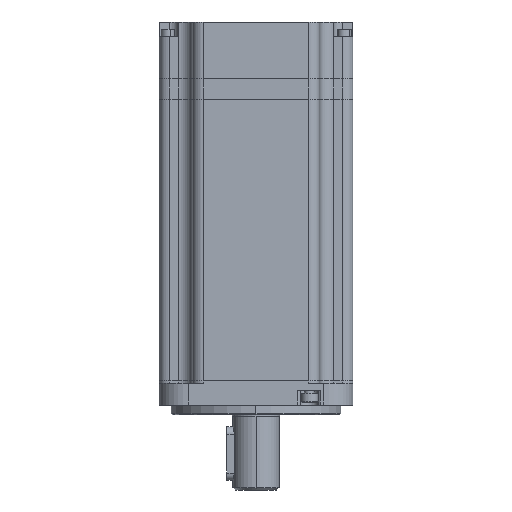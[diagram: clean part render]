
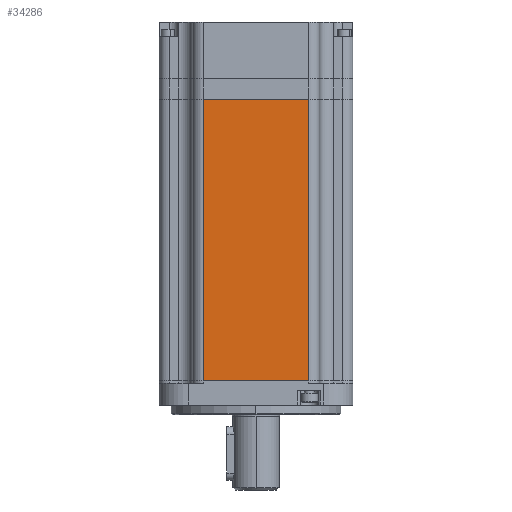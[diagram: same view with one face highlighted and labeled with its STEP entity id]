
A CAD part, left-side view. The second image highlights one B-rep face of the part: STEP entity #34286.
In plain terms, the highlighted planar face has unit normal (-1, 0, 0).
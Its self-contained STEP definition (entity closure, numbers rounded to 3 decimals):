
#624 = DIRECTION ( 'NONE',  ( 0., 0., 1. ) ) ;
#832 = ORIENTED_EDGE ( 'NONE', *, *, #10675, .T. ) ;
#1301 = ORIENTED_EDGE ( 'NONE', *, *, #33086, .T. ) ;
#1941 = VECTOR ( 'NONE', #36690, 1000. ) ;
#3444 = LINE ( 'NONE', #16172, #28342 ) ;
#7677 = LINE ( 'NONE', #25475, #40305 ) ;
#8053 = VECTOR ( 'NONE', #17402, 1000. ) ;
#10004 = VERTEX_POINT ( 'NONE', #25464 ) ;
#10675 = EDGE_CURVE ( 'NONE', #15551, #34974, #3444, .T. ) ;
#12526 = ORIENTED_EDGE ( 'NONE', *, *, #34672, .F. ) ;
#15551 = VERTEX_POINT ( 'NONE', #33468 ) ;
#15800 = DIRECTION ( 'NONE',  ( 0., -1., 0. ) ) ;
#16172 = CARTESIAN_POINT ( 'NONE',  ( -39.205, 25.902, 10. ) ) ;
#17402 = DIRECTION ( 'NONE',  ( 0., 0., -1. ) ) ;
#18154 = ORIENTED_EDGE ( 'NONE', *, *, #36886, .T. ) ;
#19242 = LINE ( 'NONE', #23726, #1941 ) ;
#20078 = DIRECTION ( 'NONE',  ( 1., 0., 0. ) ) ;
#20429 = VERTEX_POINT ( 'NONE', #28838 ) ;
#23726 = CARTESIAN_POINT ( 'NONE',  ( -39.205, -22.098, 126.1 ) ) ;
#24757 = AXIS2_PLACEMENT_3D ( 'NONE', #33038, #20078, #624 ) ;
#25043 = DIRECTION ( 'NONE',  ( 0., -1., 0. ) ) ;
#25384 = LINE ( 'NONE', #36904, #8053 ) ;
#25464 = CARTESIAN_POINT ( 'NONE',  ( -39.205, -22.098, 126.1 ) ) ;
#25475 = CARTESIAN_POINT ( 'NONE',  ( -39.205, 25.902, 126.1 ) ) ;
#28342 = VECTOR ( 'NONE', #25043, 1000. ) ;
#28838 = CARTESIAN_POINT ( 'NONE',  ( -39.205, 21.402, 126.1 ) ) ;
#33038 = CARTESIAN_POINT ( 'NONE',  ( -39.205, 25.902, 126.1 ) ) ;
#33086 = EDGE_CURVE ( 'NONE', #34974, #10004, #19242, .T. ) ;
#33468 = CARTESIAN_POINT ( 'NONE',  ( -39.205, 21.402, 10. ) ) ;
#33938 = EDGE_LOOP ( 'NONE', ( #12526, #18154, #832, #1301 ) ) ;
#34286 = ADVANCED_FACE ( 'NONE', ( #36967 ), #39627, .F. ) ;
#34672 = EDGE_CURVE ( 'NONE', #20429, #10004, #7677, .T. ) ;
#34974 = VERTEX_POINT ( 'NONE', #38890 ) ;
#36690 = DIRECTION ( 'NONE',  ( 0., 0., 1. ) ) ;
#36886 = EDGE_CURVE ( 'NONE', #20429, #15551, #25384, .T. ) ;
#36904 = CARTESIAN_POINT ( 'NONE',  ( -39.205, 21.402, 126.1 ) ) ;
#36967 = FACE_OUTER_BOUND ( 'NONE', #33938, .T. ) ;
#38890 = CARTESIAN_POINT ( 'NONE',  ( -39.205, -22.098, 10. ) ) ;
#39627 = PLANE ( 'NONE',  #24757 ) ;
#40305 = VECTOR ( 'NONE', #15800, 1000. ) ;
